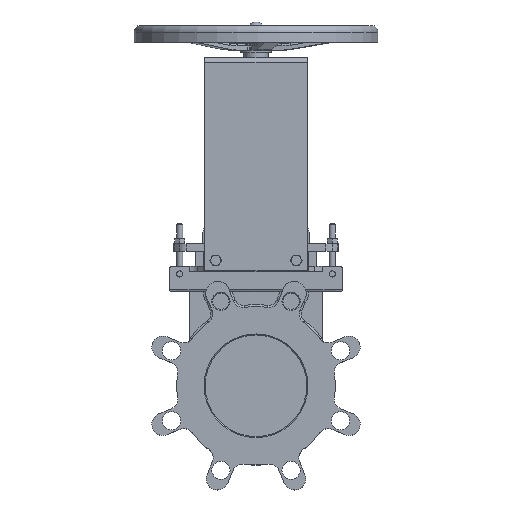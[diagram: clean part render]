
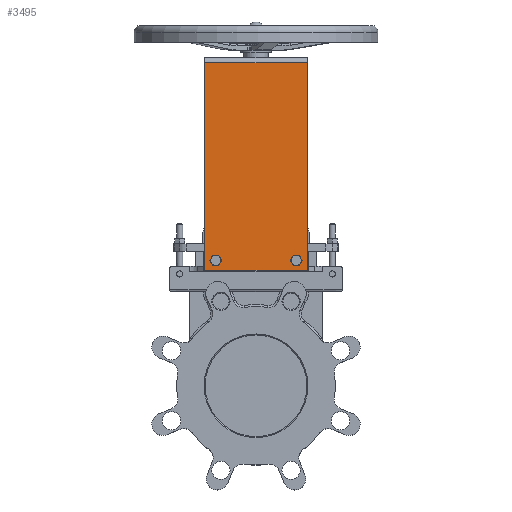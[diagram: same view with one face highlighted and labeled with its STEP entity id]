
A CAD part, top view. The second image highlights one B-rep face of the part: STEP entity #3495.
In plain terms, the highlighted planar face has unit normal (0, 0, 1).
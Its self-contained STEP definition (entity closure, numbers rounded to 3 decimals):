
#3495=ADVANCED_FACE('',(#10299,#10301,#10303),#10305,.F.);
#10299=FACE_BOUND('',#10300,.T.);
#10300=EDGE_LOOP('',(#16568,#16569,#16570,#16571));
#10301=FACE_BOUND('',#10302,.T.);
#10302=EDGE_LOOP('',(#16572));
#10303=FACE_BOUND('',#10304,.T.);
#10304=EDGE_LOOP('',(#16573));
#10305=PLANE('',#10306);
#10306=AXIS2_PLACEMENT_3D('',#10307,#10308,#10309);
#10307=CARTESIAN_POINT('',(0.,209.885,28.5));
#10308=DIRECTION('',(0.,0.,-1.));
#10309=DIRECTION('',(-1.,0.,0.));
#16568=ORIENTED_EDGE('',*,*,#19554,.F.);
#16569=ORIENTED_EDGE('',*,*,#19346,.F.);
#16570=ORIENTED_EDGE('',*,*,#19428,.F.);
#16571=ORIENTED_EDGE('',*,*,#19363,.F.);
#16572=ORIENTED_EDGE('',*,*,#19555,.F.);
#16573=ORIENTED_EDGE('',*,*,#19556,.F.);
#19346=EDGE_CURVE('',#22031,#22033,#22034,.T.);
#19363=EDGE_CURVE('',#22062,#22064,#22065,.T.);
#19428=EDGE_CURVE('',#22064,#22031,#22149,.T.);
#19554=EDGE_CURVE('',#22033,#22062,#22342,.T.);
#19555=EDGE_CURVE('',#22343,#22343,#22344,.F.);
#19556=EDGE_CURVE('',#22345,#22345,#22346,.T.);
#22031=VERTEX_POINT('',#32590);
#22033=VERTEX_POINT('',#32594);
#22034=LINE('',#32595,#32596);
#22062=VERTEX_POINT('',#32660);
#22064=VERTEX_POINT('',#32665);
#22065=LINE('',#32666,#32667);
#22149=LINE('',#33050,#33051);
#22342=LINE('',#34104,#34105);
#22343=VERTEX_POINT('',#34107);
#22344=CIRCLE('',#34108,5.);
#22345=VERTEX_POINT('',#34112);
#22346=CIRCLE('',#34113,5.);
#32590=CARTESIAN_POINT('',(-50.19,113.54,28.5));
#32594=CARTESIAN_POINT('',(-50.19,317.885,28.5));
#32595=CARTESIAN_POINT('',(-50.19,113.54,28.5));
#32596=VECTOR('',#32597,1.);
#32597=DIRECTION('',(0.,1.,0.));
#32660=CARTESIAN_POINT('',(50.19,317.885,28.5));
#32665=CARTESIAN_POINT('',(50.19,113.54,28.5));
#32666=CARTESIAN_POINT('',(50.19,317.885,28.5));
#32667=VECTOR('',#32668,1.);
#32668=DIRECTION('',(0.,-1.,0.));
#33050=CARTESIAN_POINT('',(50.19,113.54,28.5));
#33051=VECTOR('',#33052,1.);
#33052=DIRECTION('',(-1.,0.,0.));
#34104=CARTESIAN_POINT('',(-50.19,317.885,28.5));
#34105=VECTOR('',#34106,1.);
#34106=DIRECTION('',(1.,0.,0.));
#34107=CARTESIAN_POINT('',(-34.525,123.427,28.5));
#34108=AXIS2_PLACEMENT_3D('',#34109,#34110,#34111);
#34109=CARTESIAN_POINT('',(-39.525,123.427,28.5));
#34110=DIRECTION('',(0.,0.,-1.));
#34111=DIRECTION('',(1.,0.,0.));
#34112=CARTESIAN_POINT('',(34.525,123.427,28.5));
#34113=AXIS2_PLACEMENT_3D('',#34114,#34115,#34116);
#34114=CARTESIAN_POINT('',(39.525,123.427,28.5));
#34115=DIRECTION('',(0.,0.,1.));
#34116=DIRECTION('',(-1.,0.,0.));
